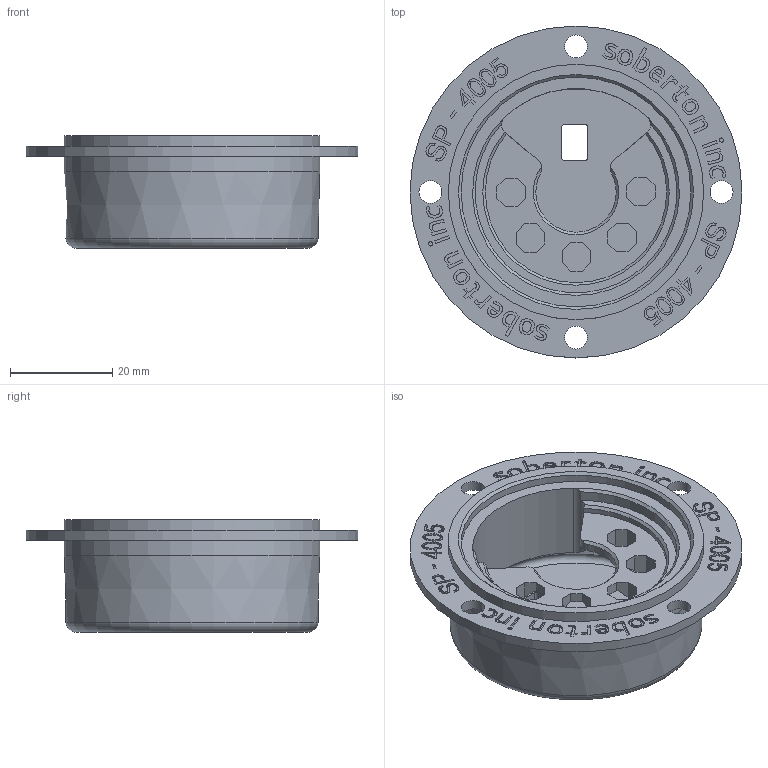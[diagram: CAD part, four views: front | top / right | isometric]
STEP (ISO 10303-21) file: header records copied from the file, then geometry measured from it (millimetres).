
FILE_DESCRIPTION(/* description */ ('Alibre Inc.'),/* implementation_level */ '2;1');
FILE_NAME(/* name */ 'export-B8BF894B-CD4C-474C-979C-3DF70E990AE5',/* time_stamp */ '2020-08-19T17:20:23-05:00',/* author */ (''),/* organization */ (''),/* preprocessor_version */ 'ST-DEVELOPER v17',/* originating_system */ 'Alibre',/* authorisation */ '');
FILE_SCHEMA (('AUTOMOTIVE_DESIGN'));
Length unit declared in the file: millimetre
Bounding box: 65 x 65 x 22 mm (x, y, z)
Volume: 23021.6 mm3; surface area: 14177.5 mm2
Topology: 1 solids, 2 shells, 1136 faces, 3150 edges, 2098 vertices
Faces by surface type: bspline 660, plane 407, cylinder 61, cone 6, torus 2
Full cylindrical faces by diameter (mm): 0.782 x1, 4.5 x4, 45 x1, 50 x2, 65 x1
Entity records: 36577 total; most frequent: CARTESIAN_POINT 12530, ORIENTED_EDGE 6270, EDGE_CURVE 3135, DIRECTION 2433, VERTEX_POINT 2097, VECTOR 1638, LINE 1638, B_SPLINE_CURVE_WITH_KNOTS 1328
